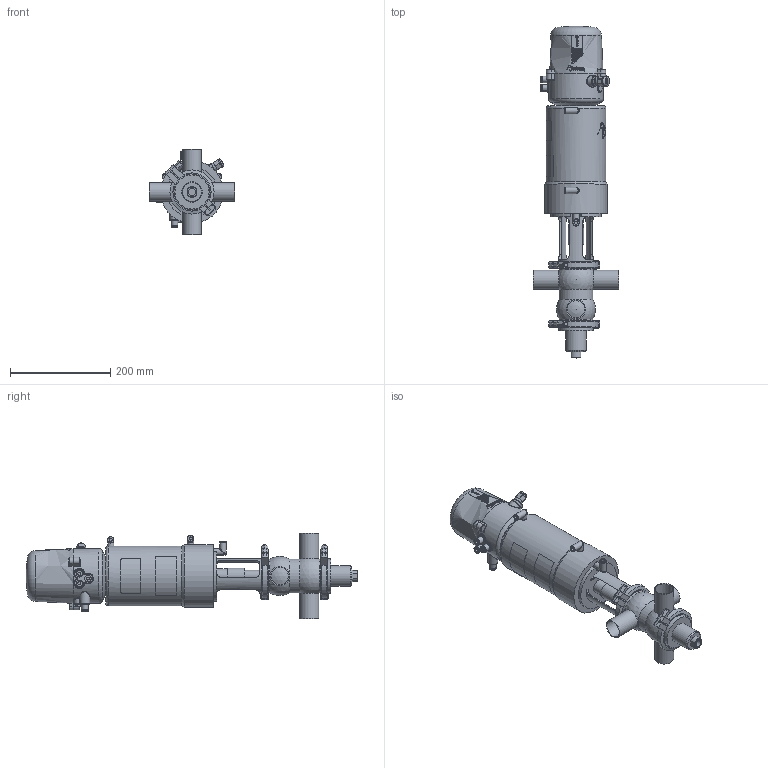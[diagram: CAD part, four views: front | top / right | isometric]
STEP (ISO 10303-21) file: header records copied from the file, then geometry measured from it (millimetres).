
FILE_DESCRIPTION (( 'STEP AP214' ), '1' );
FILE_NAME ('INNOVA P CB-90 W OD 1½ & C-TOP S_10.250.16.0015.STEP', '2024-08-09T11:46:56', ( '' ), ( '' ), 'SwSTEP 2.0', 'SolidWorks 2023', '' );
FILE_SCHEMA (( 'AUTOMOTIVE_DESIGN' ));
Length unit declared in the file: millimetre
Products named in the file (7): 10.250.15.0002_Type P T1; INNOVA P CB-90 W OD 1½ & C-TOP S_10.250.16.0015; 10.240.15.0001_DN 040; 10.250.15.0001_OD 1½"; 10.251.15.0007_OD 1½"; 10.426.15.0001_C-TOP S - 3 EV; 10.250.15.0003_DN 1½"
Assembly tree (7 placements, depth 2):
  INNOVA P CB-90 W OD 1½ & C-TOP S_10.250.16.0015
    10.250.15.0001_OD 1½"
    10.250.15.0002_Type P T1
    10.426.15.0001_C-TOP S - 3 EV
    10.251.15.0007_OD 1½"
    10.240.15.0001_DN 040  x2
    10.250.15.0003_DN 1½"
Bounding box: 170 x 661.7 x 170 mm (x, y, z)
Volume: 4755691.5 mm3; surface area: 376876.7 mm2
Topology: 7 solids, 7 shells, 1212 faces, 2916 edges, 1937 vertices
Faces by surface type: plane 415, cylinder 387, cone 204, bspline 163, torus 33, sphere 10
Full cylindrical faces by diameter (mm): 0.371 x17, 0.512 x16, 0.658 x16, 0.795 x16, 0.94 x15, 1.098 x15, 1.241 x13, 1.382 x13, 1.523 x11, 1.669 x10, 2.201 x1, 4.2 x2, 5 x1, 5.5 x2, 6 x4, 6.15 x3, 8 x5, 10 x1, 10.5 x3, 11 x4, 12.5 x9, 13 x6, 13.5 x2, 14 x1, 17 x3, 20 x2, 22 x2, 23 x1, 28 x1, 31.5 x1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
Entity records: 59251 total; most frequent: CARTESIAN_POINT 27693, ORIENTED_EDGE 4626, DIRECTION 3785, EDGE_CURVE 2313, VERTEX_POINT 1650, EDGE_LOOP 1639, AXIS2_PLACEMENT_3D 1559, FACE_OUTER_BOUND 1383
